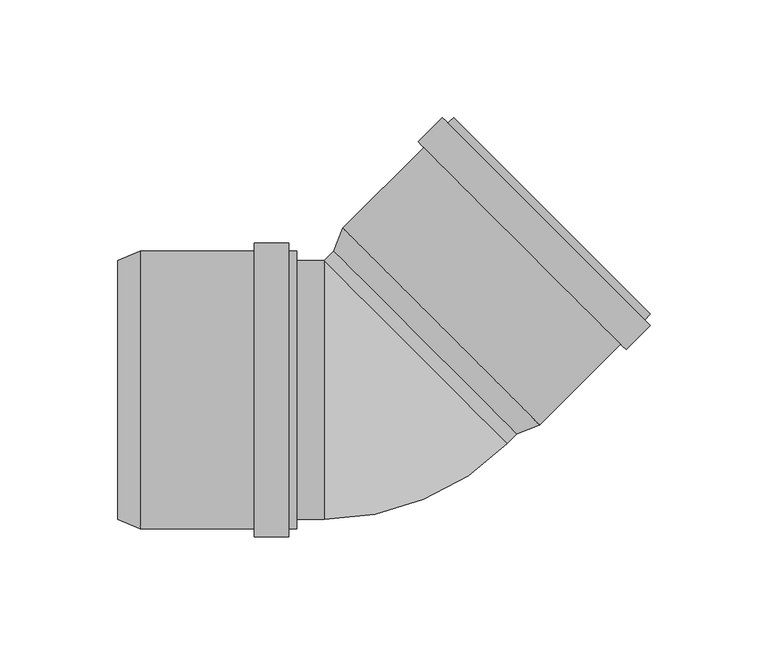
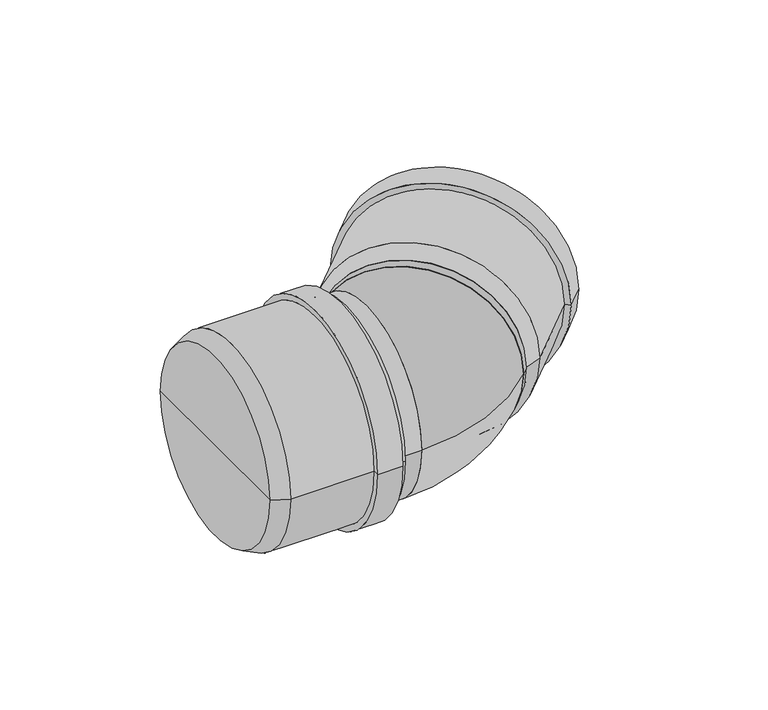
"""IFC4 building model written with IfcOpenShell, lengths in millimetres: pipe fitting geometry, pf_HTB : pf_HTB."""

import ifcopenshell
import ifcopenshell.guid

model = None  # the IFC model being written
_history = None  # IfcOwnerHistory: only IFC2X3 demands one
_inside = {}  # id of a spatial element -> (the spatial element, [elements in it])
_under = {}  # id of a project, library or spatial element -> (it, [spatial elements below it])
_declared = {}  # id of a project -> (the project, [libraries it declares])
_typed = {}  # id of a type object -> (the type object, [elements of that type])
_made_of = {}  # id of a material, layer set ... -> (it, [elements and type objects made of it])


def new_model(schema):
    """Start an empty IFC model of exactly this schema.

    Asked for "IFC4X3", IfcOpenShell would pick the latest addendum, in which some entities
    have other attributes; the version numbers below select the first issue.
    IFC2X3 requires an IfcOwnerHistory on every rooted entity: one is made here for all.
    """
    global model, _history
    if schema == "IFC4X3":
        model = ifcopenshell.file(schema_version=(4, 3, 0, 0))
    else:
        model = ifcopenshell.file(schema=schema)
    _inside.clear()
    _under.clear()
    _declared.clear()
    _typed.clear()
    _made_of.clear()
    _history = None
    if model.schema == "IFC2X3":
        org = make("IfcOrganization", Name="unknown")
        user = make(
            "IfcPersonAndOrganization",
            ThePerson=make("IfcPerson", FamilyName="unknown"),
            TheOrganization=org,
        )
        app = make(
            "IfcApplication",
            ApplicationDeveloper=org,
            Version="unknown",
            ApplicationFullName="unknown",
            ApplicationIdentifier="unknown",
        )
        _history = make(
            "IfcOwnerHistory",
            OwningUser=user,
            OwningApplication=app,
            ChangeAction="ADDED",
            CreationDate=0,
        )
    return model


def make(cls, **values):
    """One entity of the class cls with the attributes given. An attribute that is None is left unset."""
    return model.create_entity(
        cls, **{name: value for name, value in values.items() if value is not None}
    )


def rooted(cls, **values):
    """An entity with a GlobalId (a new one), such as an element, a storey or a relation."""
    return make(cls, GlobalId=ifcopenshell.guid.new(), OwnerHistory=_history, **values)


def si_unit(unit_type, name, prefix=None):
    """IfcSIUnit, for example si_unit("LENGTHUNIT", "METRE", prefix="MILLI")."""
    return make("IfcSIUnit", UnitType=unit_type, Prefix=prefix, Name=name)


def assignment(units):
    """IfcUnitAssignment: the units of a project."""
    return None if units is None else make("IfcUnitAssignment", Units=units)


def point(xyz):
    """IfcCartesianPoint."""
    return None if xyz is None else make("IfcCartesianPoint", Coordinates=xyz)


def direction(xyz):
    """IfcDirection."""
    return None if xyz is None else make("IfcDirection", DirectionRatios=xyz)


def frame(location, z_axis=None, x_axis=None):
    """IfcAxis2Placement3D, a coordinate frame: its origin and axes. An axis left out is left unset."""
    return make(
        "IfcAxis2Placement3D",
        Location=point(location),
        Axis=direction(z_axis),
        RefDirection=direction(x_axis),
    )


def frame_2d(location, x_axis=None):
    """IfcAxis2Placement2D, a coordinate frame in the plane: its origin and x axis."""
    return make(
        "IfcAxis2Placement2D", Location=point(location), RefDirection=direction(x_axis)
    )


def origin():
    """The frame at (0, 0, 0) with its axes left unset."""
    return frame((0.0, 0.0, 0.0))


def origin_2d():
    """The frame at (0, 0) in the plane with its x axis left unset."""
    return frame_2d((0.0, 0.0))


def place(relative_to, where):
    """IfcLocalPlacement: puts the frame where relative to a parent placement (None: the world)."""
    return make(
        "IfcLocalPlacement", PlacementRelTo=relative_to, RelativePlacement=where
    )


def context(
    kind, dimensions, precision=None, world=None, true_north=None, identifier=None
):
    """IfcGeometricRepresentationContext, for example the 3D "Model" context."""
    return make(
        "IfcGeometricRepresentationContext",
        ContextIdentifier=identifier,
        ContextType=kind,
        CoordinateSpaceDimension=dimensions,
        Precision=precision,
        WorldCoordinateSystem=world,
        TrueNorth=true_north,
    )


def project(units=None, contexts=None):
    """IfcProject with its units and contexts."""
    return rooted(
        "IfcProject",
        Name="project",
        RepresentationContexts=contexts,
        UnitsInContext=assignment(units),
    )


def spatial(cls, under=None, at=None, **own):
    """A site, building, storey or space (cls), placed at a placement, below another one or the project."""
    s = rooted(cls, ObjectPlacement=at, **own)
    if under is not None:
        _under.setdefault(under.id(), (under, []))[1].append(s)
    return s


def polyline(points):
    """IfcPolyline through the points."""
    return make("IfcPolyline", Points=[point(p) for p in points])


def circle_curve(where, radius):
    """IfcCircle in the frame where."""
    return make("IfcCircle", Position=where, Radius=radius)


def ellipse_curve(where, semi_axis1, semi_axis2):
    """IfcEllipse in the frame where."""
    return make(
        "IfcEllipse", Position=where, SemiAxis1=semi_axis1, SemiAxis2=semi_axis2
    )


def trimmed(basis, trim1, trim2, sense, master):
    """IfcTrimmedCurve: the piece of a basis curve between two trims."""
    return make(
        "IfcTrimmedCurve",
        BasisCurve=basis,
        Trim1=trim1,
        Trim2=trim2,
        SenseAgreement=sense,
        MasterRepresentation=master,
    )


def segment(curve, same_sense, transition):
    """IfcCompositeCurveSegment."""
    return make(
        "IfcCompositeCurveSegment",
        Transition=transition,
        SameSense=same_sense,
        ParentCurve=curve,
    )


def composite_curve(segments, self_intersect=None):
    """IfcCompositeCurve: segments joined end to end."""
    return make("IfcCompositeCurve", Segments=segments, SelfIntersect=self_intersect)


def outline(outer, holes=None, kind="AREA"):
    """IfcArbitraryClosedProfileDef: a profile drawn as a closed curve; with holes, ...WithVoids."""
    if holes is None:
        return make("IfcArbitraryClosedProfileDef", ProfileType=kind, OuterCurve=outer)
    return make(
        "IfcArbitraryProfileDefWithVoids",
        ProfileType=kind,
        OuterCurve=outer,
        InnerCurves=holes,
    )


def extrude(swept, where, along, depth):
    """IfcExtrudedAreaSolid: the profile swept, set in the frame where, extruded along a direction by depth."""
    return make(
        "IfcExtrudedAreaSolid",
        SweptArea=swept,
        Position=where,
        ExtrudedDirection=direction(along),
        Depth=depth,
    )


def shape(context_of_items, identifier, shape_type, items):
    """IfcShapeRepresentation: the items that make up one representation, for example the "Body"."""
    return make(
        "IfcShapeRepresentation",
        ContextOfItems=context_of_items,
        RepresentationIdentifier=identifier,
        RepresentationType=shape_type,
        Items=items,
    )


def source(mapping_origin, context_of_items, identifier, shape_type, items):
    """IfcRepresentationMap: a shape defined once, which mapped items show again and again."""
    return make(
        "IfcRepresentationMap",
        MappingOrigin=mapping_origin,
        MappedRepresentation=shape(context_of_items, identifier, shape_type, items),
    )


def transform(
    local_origin,
    x_axis=None,
    y_axis=None,
    z_axis=None,
    scale=None,
    scale2=None,
    scale3=None,
    uniform=True,
):
    """IfcCartesianTransformationOperator3D, or its non-uniform kind. x_axis, y_axis, z_axis: its Axis1, 2, 3."""
    if uniform:
        return make(
            "IfcCartesianTransformationOperator3D",
            Axis1=direction(x_axis),
            Axis2=direction(y_axis),
            LocalOrigin=point(local_origin),
            Scale=scale,
            Axis3=direction(z_axis),
        )
    return make(
        "IfcCartesianTransformationOperator3DnonUniform",
        Axis1=direction(x_axis),
        Axis2=direction(y_axis),
        LocalOrigin=point(local_origin),
        Scale=scale,
        Axis3=direction(z_axis),
        Scale2=scale2,
        Scale3=scale3,
    )


def mapped(mapping_source, mapping_target):
    """IfcMappedItem: shows the shape of a source again, moved by a transform."""
    return make(
        "IfcMappedItem", MappingSource=mapping_source, MappingTarget=mapping_target
    )


def made_of(thing, what):
    """Note that an element or type object is made of a material, layer set ...; save() writes the relation."""
    if what is not None:
        _made_of.setdefault(what.id(), (what, []))[1].append(thing)
    return thing


def element(
    cls,
    number,
    at=None,
    inside=None,
    cuts=None,
    type_object=None,
    material=None,
    context=None,
    identifier="Body",
    shape_type=None,
    held_by="IfcProductDefinitionShape",
    body=None,
    shapes=None,
    **own,
):
    """One element of the class cls, such as IfcWall. Its Tag is "e" and its number.

    at: its placement. inside: the storey or other place that contains it. cuts: it is an
    opening in that element (IfcRelVoidsElement). A single representation is given by context,
    identifier, shape_type and body (its items); several are given by shapes. held_by: the class
    of the entity that holds the representations. save() writes the other relations.
    """
    e = rooted(cls, Tag="e%d" % number, ObjectPlacement=at, **own)
    if body is not None:
        shapes = [shape(context, identifier, shape_type, body)]
    if shapes is not None:
        e.Representation = make(held_by, Representations=shapes)
    if inside is not None:
        _inside.setdefault(inside.id(), (inside, []))[1].append(e)
    if cuts is not None:
        rooted(
            "IfcRelVoidsElement", RelatingBuildingElement=cuts, RelatedOpeningElement=e
        )
    if type_object is not None:
        _typed.setdefault(type_object.id(), (type_object, []))[1].append(e)
    return made_of(e, material)


def aggregate(whole, parts):
    """IfcRelAggregates: a whole, such as a stair, and the parts it consists of."""
    return rooted("IfcRelAggregates", RelatingObject=whole, RelatedObjects=parts)


def save(model, path):
    """Write the relations noted so far, then the file.

    IfcRelAggregates (storeys below a building ...), IfcRelContainedInSpatialStructure (elements
    in a storey), IfcRelDefinesByType, IfcRelAssociatesMaterial and IfcRelDeclares: one each for
    every whole, place, type object, material and project.
    """
    for whole, parts in _under.values():
        aggregate(whole, parts)
    for where, things in _inside.values():
        rooted(
            "IfcRelContainedInSpatialStructure",
            RelatedElements=things,
            RelatingStructure=where,
        )
    for kind, things in _typed.values():
        rooted("IfcRelDefinesByType", RelatedObjects=things, RelatingType=kind)
    for what, things in _made_of.values():
        rooted("IfcRelAssociatesMaterial", RelatedObjects=things, RelatingMaterial=what)
    for by, libraries in _declared.values():
        rooted("IfcRelDeclares", RelatingContext=by, RelatedDefinitions=libraries)
    model.write(path)


def plane_surface(at):
    """IfcPlane: the flat surface through the origin of the frame at, square to its z axis."""
    return make("IfcPlane", Position=at)


def cylinder_surface(at, radius):
    """IfcCylindricalSurface: all points at the distance radius from the z axis of the frame at."""
    return make("IfcCylindricalSurface", Position=at, Radius=radius)


def revolved_surface(curve, axis_point, axis_direction):
    """IfcSurfaceOfRevolution: the curve turned about the line through axis_point along axis_direction."""
    return make(
        "IfcSurfaceOfRevolution",
        SweptCurve=make("IfcArbitraryOpenProfileDef", ProfileType="CURVE", Curve=curve),
        AxisPosition=make("IfcAxis1Placement", Location=point(axis_point), Axis=direction(axis_direction)),
    )


def advanced_brep(points, edges, surfaces, faces):
    """IfcAdvancedBrep: a solid bounded by faces that lie on surfaces and meet in shared edges.

    An edge is (start, end): straight between two places in points (the first is 0);
    or (start, end, curve); or (start, end, curve, False) where it runs against its curve.
    A face is (place in surfaces, loops), or (place, loops, False) where it looks against
    its surface's normal. A loop lists edges by number (the first is 1), with a minus sign
    where the edge is run from its end to its start. The first loop is the outer one.
    """
    corners = [point(p) for p in points]
    vertices = [make("IfcVertexPoint", VertexGeometry=c) for c in corners]
    made = []
    for start, end, *more in edges:
        made.append(
            make(
                "IfcEdgeCurve",
                EdgeStart=vertices[start],
                EdgeEnd=vertices[end],
                EdgeGeometry=more[0] if more else make("IfcPolyline", Points=[corners[start], corners[end]]),
                SameSense=more[1] if len(more) > 1 else True,
            )
        )
    hull = []
    for where, loops, *sense in faces:
        bounds = []
        for j, loop in enumerate(loops):
            ring = [make("IfcOrientedEdge", EdgeElement=made[abs(k) - 1], Orientation=k > 0) for k in loop]
            bounds.append(
                make(
                    "IfcFaceOuterBound" if j == 0 else "IfcFaceBound",
                    Bound=make("IfcEdgeLoop", EdgeList=ring),
                    Orientation=True,
                )
            )
        hull.append(make("IfcAdvancedFace", Bounds=bounds, FaceSurface=surfaces[where], SameSense=sense[0] if sense else True))
    return make("IfcAdvancedBrep", Outer=make("IfcClosedShell", CfsFaces=hull))


def pipe_fitting_d9a1dc68(model_context):
    return source(origin(), model_context, "Body", "SolidModel", [
        advanced_brep(
        [(59.1141269, -18.667619, 0.0), (-18.667619, 59.1141269, 0.0), (-14.8492424, 68.7307791, 0.0), (68.7307791, -14.8492424, 0.0), (20.2232539, 20.2232539, 0.0), (115.7533801, 32.1733585, 0.0), (32.1733585, 115.7533801, 0.0), (35.0724963, 112.8542423, 0.0), (112.8542423, 35.0724963, 0.0), (113.349217, 29.7691955, 0.0), (29.7691955, 113.349217, 0.0), (115.7533801, 27.3650324, 0.0), (27.3650324, 115.7533801, 0.0), (105.5003318, 17.1119841, 0.0), (17.1119841, 105.5003318, 0.0), (103.0961687, 19.5161472, 0.0), (19.5161472, 103.0961687, 0.0), (65.8316413, -11.9501046, 0.0), (-11.9501046, 65.8316413, 0.0), (26.9407684, 26.9407684, 0.0)],
        [
            (0, 1, circle_curve(frame((20.2232539, 20.2232539, 0.0), z_axis=(0.7071067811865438, 0.7071067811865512, 0.0), x_axis=(-0.7071067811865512, 0.7071067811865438, 0.0)), 55.0)),
            (1, 2),
            (2, 3, circle_curve(frame((26.9407684, 26.9407684, 0.0), z_axis=(-0.7071067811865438, -0.7071067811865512, 0.0), x_axis=(-0.7071067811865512, 0.7071067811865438, 0.0)), 59.1)),
            (3, 0),
            (1, 0, circle_curve(frame((20.2232539, 20.2232539, 0.0), z_axis=(0.7071067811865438, 0.7071067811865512, 0.0), x_axis=(-0.7071067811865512, 0.7071067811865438, 0.0)), 55.0)),
            (3, 2, circle_curve(frame((26.9407684, 26.9407684, 0.0), z_axis=(-0.7071067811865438, -0.7071067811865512, 0.0), x_axis=(-0.7071067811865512, 0.7071067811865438, 0.0)), 59.1)),
            (4, 1),
            (0, 4),
            (5, 6, circle_curve(frame((73.9633693, 73.9633693, 0.0), z_axis=(0.7071067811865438, 0.7071067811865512, 0.0), x_axis=(-0.7071067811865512, 0.7071067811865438, 0.0)), 59.1)),
            (6, 7),
            (7, 8, circle_curve(frame((73.9633693, 73.9633693, 0.0), z_axis=(-0.7071067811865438, -0.7071067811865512, 0.0), x_axis=(-0.7071067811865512, 0.7071067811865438, 0.0)), 55.0)),
            (8, 5),
            (6, 5, circle_curve(frame((73.9633693, 73.9633693, 0.0), z_axis=(0.7071067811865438, 0.7071067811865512, 0.0), x_axis=(-0.7071067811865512, 0.7071067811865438, 0.0)), 59.1)),
            (8, 7, circle_curve(frame((73.9633693, 73.9633693, 0.0), z_axis=(-0.7071067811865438, -0.7071067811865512, 0.0), x_axis=(-0.7071067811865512, 0.7071067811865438, 0.0)), 55.0)),
            (9, 10, circle_curve(frame((71.5592063, 71.5592063, 0.0), z_axis=(0.7071067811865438, 0.7071067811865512, 0.0), x_axis=(-0.7071067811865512, 0.7071067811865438, 0.0)), 59.1)),
            (10, 6),
            (5, 9),
            (10, 9, circle_curve(frame((71.5592063, 71.5592063, 0.0), z_axis=(0.7071067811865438, 0.7071067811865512, 0.0), x_axis=(-0.7071067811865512, 0.7071067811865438, 0.0)), 59.1)),
            (11, 12, circle_curve(frame((71.5592063, 71.5592063, 0.0), z_axis=(0.7071067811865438, 0.7071067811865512, 0.0), x_axis=(-0.7071067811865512, 0.7071067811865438, 0.0)), 62.5)),
            (12, 10),
            (9, 11),
            (12, 11, circle_curve(frame((71.5592063, 71.5592063, 0.0), z_axis=(0.7071067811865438, 0.7071067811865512, 0.0), x_axis=(-0.7071067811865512, 0.7071067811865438, 0.0)), 62.5)),
            (13, 14, circle_curve(frame((61.3061579, 61.3061579, 0.0), z_axis=(0.7071067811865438, 0.7071067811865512, 0.0), x_axis=(-0.7071067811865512, 0.7071067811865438, 0.0)), 62.5)),
            (14, 12),
            (11, 13),
            (14, 13, circle_curve(frame((61.3061579, 61.3061579, 0.0), z_axis=(0.7071067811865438, 0.7071067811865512, 0.0), x_axis=(-0.7071067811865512, 0.7071067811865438, 0.0)), 62.5)),
            (15, 16, circle_curve(frame((61.3061579, 61.3061579, 0.0), z_axis=(0.7071067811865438, 0.7071067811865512, 0.0), x_axis=(-0.7071067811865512, 0.7071067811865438, 0.0)), 59.1)),
            (16, 14),
            (13, 15),
            (16, 15, circle_curve(frame((61.3061579, 61.3061579, 0.0), z_axis=(0.7071067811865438, 0.7071067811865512, 0.0), x_axis=(-0.7071067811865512, 0.7071067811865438, 0.0)), 59.1)),
            (2, 16),
            (15, 3),
            (17, 18, circle_curve(frame((26.9407684, 26.9407684, 0.0), z_axis=(0.7071067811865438, 0.7071067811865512, 0.0), x_axis=(-0.7071067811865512, 0.7071067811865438, 0.0)), 55.0)),
            (18, 19),
            (19, 17),
            (18, 17, circle_curve(frame((26.9407684, 26.9407684, 0.0), z_axis=(0.7071067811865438, 0.7071067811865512, 0.0), x_axis=(-0.7071067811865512, 0.7071067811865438, 0.0)), 55.0)),
            (7, 18),
            (17, 8),
        ],
        [
            revolved_surface(polyline([(-14.8492424, 68.7307791, 0.0), (-18.667619, 59.1141269, 0.0)]), (20.2232539, 20.2232539, 0.0), (-0.7071067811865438, -0.7071067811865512, 0.0)),
            plane_surface(frame((20.2232539, 20.2232539, 0.0), z_axis=(-0.7071067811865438, -0.7071067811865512, 0.0), x_axis=(-0.7071067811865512, 0.7071067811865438, 0.0))),
            plane_surface(frame((73.9633693, 73.9633693, 0.0), z_axis=(0.7071067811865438, 0.7071067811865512, 0.0), x_axis=(-0.7071067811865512, 0.7071067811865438, 0.0))),
            cylinder_surface(frame((20.2232539, 20.2232539, 0.0), z_axis=(-0.7071067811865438, -0.7071067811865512, 0.0), x_axis=(-0.7071067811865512, 0.7071067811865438, 0.0)), 59.1),
            plane_surface(frame((71.5592063, 71.5592063, 0.0), z_axis=(0.7071067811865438, 0.7071067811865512, 0.0), x_axis=(-0.7071067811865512, 0.7071067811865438, 0.0))),
            cylinder_surface(frame((20.2232539, 20.2232539, 0.0), z_axis=(-0.7071067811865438, -0.7071067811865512, 0.0), x_axis=(-0.7071067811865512, 0.7071067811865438, 0.0)), 62.5),
            plane_surface(frame((61.3061579, 61.3061579, 0.0), z_axis=(-0.7071067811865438, -0.7071067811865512, 0.0), x_axis=(-0.7071067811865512, 0.7071067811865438, 0.0))),
            plane_surface(frame((26.9407684, 26.9407684, 0.0), z_axis=(0.7071067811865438, 0.7071067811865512, 0.0), x_axis=(-0.7071067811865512, 0.7071067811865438, 0.0))),
            revolved_surface(polyline([(-11.95010461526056, 65.83164131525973, 0.0), (35.07249633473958, 112.85424226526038, 0.0)]), (20.2232539, 20.2232539, 0.0), (-0.7071067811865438, -0.7071067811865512, 0.0)),
        ],
        [
            (0, [[1, 2, 3, 4]]),
            (0, [[5, -4, 6, -2]]),
            (1, [[7, -1, 8]]),
            (1, [[-8, -5, -7]]),
            (2, [[9, 10, 11, 12]]),
            (2, [[13, -12, 14, -10]]),
            (3, [[15, 16, -9, 17]]),
            (3, [[18, -17, -13, -16]]),
            (4, [[19, 20, -15, 21]]),
            (4, [[22, -21, -18, -20]]),
            (5, [[23, 24, -19, 25]]),
            (5, [[26, -25, -22, -24]]),
            (6, [[27, 28, -23, 29]]),
            (6, [[30, -29, -26, -28]]),
            (3, [[-3, 31, -27, 32]]),
            (3, [[-6, -32, -30, -31]]),
            (7, [[33, 34, 35]]),
            (7, [[36, -35, -34]]),
            (8, [[-11, 37, -33, 38]]),
            (8, [[-14, -38, -36, -37]]),
        ],
    ),
        advanced_brep(
        [(-110.5, -55.0, 0.0), (-110.5, 55.0, 0.0), (-101.0, 59.1, 0.0), (-101.0, -59.1, 0.0), (-110.5, 0.0, 0.0), (-34.5, -59.1, 0.0), (-34.5, 59.1, 0.0), (-34.5, 55.0, 0.0), (-34.5, -55.0, 0.0), (-37.9, -59.1, 0.0), (-37.9, 59.1, 0.0), (-37.9, -62.5, 0.0), (-37.9, 62.5, 0.0), (-52.4, -62.5, 0.0), (-52.4, 62.5, 0.0), (-52.4, -59.1, 0.0), (-52.4, 59.1, 0.0), (-101.0, -55.0, 0.0), (-101.0, 55.0, 0.0), (-101.0, 0.0, 0.0)],
        [
            (0, 1, circle_curve(frame((-110.5, 0.0, 0.0), z_axis=(1.0, 0.0, 0.0), x_axis=(0.0, 1.0, 0.0)), 55.0)),
            (1, 2),
            (2, 3, circle_curve(frame((-101.0, 0.0, 0.0), z_axis=(-1.0, 0.0, 0.0), x_axis=(0.0, 1.0, 0.0)), 59.1)),
            (3, 0),
            (1, 0, circle_curve(frame((-110.5, 0.0, 0.0), z_axis=(1.0, 0.0, 0.0), x_axis=(0.0, 1.0, 0.0)), 55.0)),
            (3, 2, circle_curve(frame((-101.0, 0.0, 0.0), z_axis=(-1.0, 0.0, 0.0), x_axis=(0.0, 1.0, 0.0)), 59.1)),
            (4, 1),
            (0, 4),
            (5, 6, circle_curve(frame((-34.5, 0.0, 0.0), z_axis=(1.0, 0.0, 0.0), x_axis=(0.0, 1.0, 0.0)), 59.1)),
            (6, 7),
            (7, 8, circle_curve(frame((-34.5, 0.0, 0.0), z_axis=(-1.0, 0.0, 0.0), x_axis=(0.0, 1.0, 0.0)), 55.0)),
            (8, 5),
            (6, 5, circle_curve(frame((-34.5, 0.0, 0.0), z_axis=(1.0, 0.0, 0.0), x_axis=(0.0, 1.0, 0.0)), 59.1)),
            (8, 7, circle_curve(frame((-34.5, 0.0, 0.0), z_axis=(-1.0, 0.0, 0.0), x_axis=(0.0, 1.0, 0.0)), 55.0)),
            (9, 10, circle_curve(frame((-37.9, 0.0, 0.0), z_axis=(1.0, 0.0, 0.0), x_axis=(0.0, 1.0, 0.0)), 59.1)),
            (10, 6),
            (5, 9),
            (10, 9, circle_curve(frame((-37.9, 0.0, 0.0), z_axis=(1.0, 0.0, 0.0), x_axis=(0.0, 1.0, 0.0)), 59.1)),
            (11, 12, circle_curve(frame((-37.9, 0.0, 0.0), z_axis=(1.0, 0.0, 0.0), x_axis=(0.0, 1.0, 0.0)), 62.5)),
            (12, 10),
            (9, 11),
            (12, 11, circle_curve(frame((-37.9, 0.0, 0.0), z_axis=(1.0, 0.0, 0.0), x_axis=(0.0, 1.0, 0.0)), 62.5)),
            (13, 14, circle_curve(frame((-52.4, 0.0, 0.0), z_axis=(1.0, 0.0, 0.0), x_axis=(0.0, 1.0, 0.0)), 62.5)),
            (14, 12),
            (11, 13),
            (14, 13, circle_curve(frame((-52.4, 0.0, 0.0), z_axis=(1.0, 0.0, 0.0), x_axis=(0.0, 1.0, 0.0)), 62.5)),
            (15, 16, circle_curve(frame((-52.4, 0.0, 0.0), z_axis=(1.0, 0.0, 0.0), x_axis=(0.0, 1.0, 0.0)), 59.1)),
            (16, 14),
            (13, 15),
            (16, 15, circle_curve(frame((-52.4, 0.0, 0.0), z_axis=(1.0, 0.0, 0.0), x_axis=(0.0, 1.0, 0.0)), 59.1)),
            (2, 16),
            (15, 3),
            (17, 18, circle_curve(frame((-101.0, 0.0, 0.0), z_axis=(1.0, 0.0, 0.0), x_axis=(0.0, 1.0, 0.0)), 55.0)),
            (18, 19),
            (19, 17),
            (18, 17, circle_curve(frame((-101.0, 0.0, 0.0), z_axis=(1.0, 0.0, 0.0), x_axis=(0.0, 1.0, 0.0)), 55.0)),
            (7, 18),
            (17, 8),
        ],
        [
            revolved_surface(polyline([(-101.0, 59.1, 0.0), (-110.5, 55.0, 0.0)]), (-110.5, 0.0, 0.0), (-1.0, 0.0, 0.0)),
            plane_surface(frame((-110.5, 0.0, 0.0), z_axis=(-1.0, 0.0, 0.0), x_axis=(0.0, 1.0, 0.0))),
            plane_surface(frame((-34.5, 0.0, 0.0), z_axis=(1.0, 0.0, 0.0), x_axis=(0.0, 1.0, 0.0))),
            cylinder_surface(frame((-110.5, 0.0, 0.0), z_axis=(-1.0, 0.0, 0.0), x_axis=(0.0, 1.0, 0.0)), 59.1),
            plane_surface(frame((-37.9, 0.0, 0.0), z_axis=(1.0, 0.0, 0.0), x_axis=(0.0, 1.0, 0.0))),
            cylinder_surface(frame((-110.5, 0.0, 0.0), z_axis=(-1.0, 0.0, 0.0), x_axis=(0.0, 1.0, 0.0)), 62.5),
            plane_surface(frame((-52.4, 0.0, 0.0), z_axis=(-1.0, 0.0, 0.0), x_axis=(0.0, 1.0, 0.0))),
            plane_surface(frame((-101.0, 0.0, 0.0), z_axis=(1.0, 0.0, 0.0), x_axis=(0.0, 1.0, 0.0))),
            revolved_surface(polyline([(-101.0, 55.0, 0.0), (-34.5, 55.0, 0.0)]), (-110.5, 0.0, 0.0), (-1.0, 0.0, 0.0)),
        ],
        [
            (0, [[1, 2, 3, 4]]),
            (0, [[5, -4, 6, -2]]),
            (1, [[7, -1, 8]]),
            (1, [[-8, -5, -7]]),
            (2, [[9, 10, 11, 12]]),
            (2, [[13, -12, 14, -10]]),
            (3, [[15, 16, -9, 17]]),
            (3, [[18, -17, -13, -16]]),
            (4, [[19, 20, -15, 21]]),
            (4, [[22, -21, -18, -20]]),
            (5, [[23, 24, -19, 25]]),
            (5, [[26, -25, -22, -24]]),
            (6, [[27, 28, -23, 29]]),
            (6, [[30, -29, -26, -28]]),
            (3, [[-3, 31, -27, 32]]),
            (3, [[-6, -32, -30, -31]]),
            (7, [[33, 34, 35]]),
            (7, [[36, -35, -34]]),
            (8, [[-11, 37, -33, 38]]),
            (8, [[-14, -38, -36, -37]]),
        ],
    ),
        extrude(outline(composite_curve([segment(trimmed(circle_curve(origin_2d(), 55.0), [point((0.0, -55.0))], [point((0.0, 55.0))], False, "CARTESIAN"), True, "CONTINUOUS"), segment(trimmed(circle_curve(origin_2d(), 55.0), [point((0.0, 55.0))], [point((0.0, -55.0))], False, "CARTESIAN"), True, "CONTINUOUS")], self_intersect=False)), frame((16.109127, 16.109127, 0.0), z_axis=(0.707106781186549, 0.7071067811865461, 0.0), x_axis=(0.0, 0.0, 1.0)), (0.0, 0.0, 1.0), 15.3182541),
        extrude(outline(composite_curve([segment(trimmed(circle_curve(origin_2d(), 55.0), [point((-55.0, 0.0))], [point((55.0, 0.0))], False, "CARTESIAN"), True, "CONTINUOUS"), segment(trimmed(circle_curve(origin_2d(), 55.0), [point((55.0, 0.0))], [point((-55.0, 0.0))], False, "CARTESIAN"), True, "CONTINUOUS")], self_intersect=False)), frame((-101.0, 0.0, 0.0), z_axis=(1.0, 0.0, 0.0), x_axis=(0.0, 1.0, 0.0)), (0.0, 0.0, 1.0), 78.2182541),
        advanced_brep(
        [(-22.7817459, -55.0, 0.0), (-22.7817459, 55.0, 0.0), (55.0, -22.7817459, 0.0)],
        [
            (0, 1, circle_curve(frame((-22.7817459, 0.0, 0.0), z_axis=(-1.0, 0.0, 0.0), x_axis=(0.0, 1.0, 0.0)), 55.0)),
            (1, 0, circle_curve(frame((-22.7817459, 0.0, 0.0), z_axis=(-1.0, 0.0, 0.0), x_axis=(0.0, 1.0, 0.0)), 55.0)),
            (2, 1, circle_curve(frame((16.109127, 16.109127, 0.0), z_axis=(0.7071067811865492, 0.7071067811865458, 0.0), x_axis=(-0.7071067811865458, 0.7071067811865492, 0.0)), 55.0)),
            (1, 2, circle_curve(frame((16.109127, 16.109127, 0.0), z_axis=(0.7071067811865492, 0.7071067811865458, 0.0), x_axis=(-0.7071067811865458, 0.7071067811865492, 0.0)), 55.0)),
            (2, 0, circle_curve(frame((-22.7817459, 55.0, 0.0), z_axis=(0.0, 0.0, -1.0), x_axis=(0.0, -1.0, 0.0)), 110.0)),
        ],
        [
            plane_surface(frame((-22.7817459, 55.0, -14.8), z_axis=(-1.0, 0.0, 0.0), x_axis=(0.0, -1.0, 0.0))),
            plane_surface(frame((-22.7817459, 55.0, -14.8), z_axis=(0.7071067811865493, 0.7071067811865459, 0.0), x_axis=(0.7071067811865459, -0.7071067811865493, 0.0))),
            revolved_surface(trimmed(ellipse_curve(frame((-22.7817459, 0.0, 0.0), z_axis=(1.0, 0.0, 0.0), x_axis=(0.0, 1.0, 0.0)), 55.0, 55.0), [point((-22.7817459, -55.0, 0.0))], [point((-22.7817459, 55.0, 0.0))], True, "CARTESIAN"), (-22.7817459, 55.0, -14.8), (0.0, 0.0, -1.0)),
            revolved_surface(trimmed(ellipse_curve(frame((-22.7817459, 0.0, 0.0), z_axis=(1.0, 0.0, 0.0), x_axis=(0.0, 1.0, 0.0)), 55.0, 55.0), [point((-22.7817459, 55.0, 0.0))], [point((-22.7817459, -55.0, 0.0))], True, "CARTESIAN"), (-22.7817459, 55.0, -14.8), (0.0, 0.0, -1.0)),
        ],
        [
            (0, [[1, 2]]),
            (1, [[3, 4]]),
            (2, [[5, -2, -3]]),
            (3, [[-1, -5, -4]]),
        ],
    ),
    ])


if __name__ == "__main__":
    model = new_model("IFC4")
    model_context = context("Model", 3, world=origin())
    ifc_project = project(units=[si_unit("LENGTHUNIT", "METRE", prefix="MILLI")], contexts=[model_context])
    site = spatial("IfcSite", under=ifc_project)
    building = spatial("IfcBuilding", under=site)
    placement = place(None, origin())
    pipe_fitting_shape = pipe_fitting_d9a1dc68(model_context)
    element("IfcPipeFitting", 1, ObjectType="pf_HTB : pf_HTB", at=placement, inside=building, context=model_context, shape_type="MappedRepresentation", body=[
        mapped(pipe_fitting_shape, transform((0.0, 0.0, 0.0), x_axis=(1.0, 0.0, 0.0), y_axis=(0.0, 1.0, 0.0), z_axis=(0.0, 0.0, 1.0))),
    ])
    save(model, "model.ifc")
